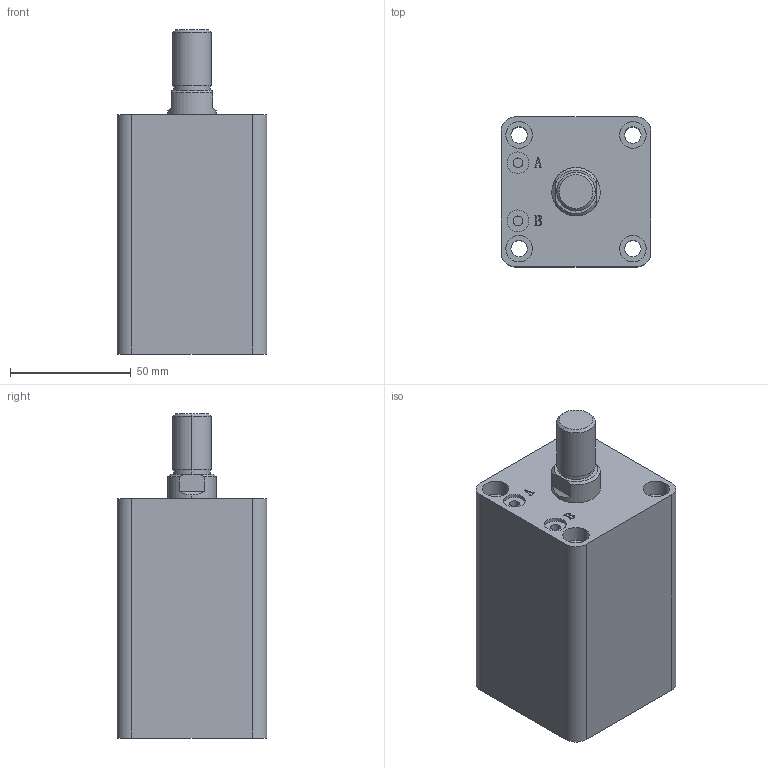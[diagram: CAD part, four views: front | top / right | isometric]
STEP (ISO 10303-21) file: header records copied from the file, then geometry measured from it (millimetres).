
FILE_DESCRIPTION (( 'STEP AP203' ), '1' );
FILE_NAME ('HTB-SDMA32-45W.STEP', '2019-10-07T11:41:13', ( '微软用户' ), ( '微软中国' ), 'SwSTEP 2.0', 'SolidWorks 2012', '' );
FILE_SCHEMA (( 'CONFIG_CONTROL_DESIGN' ));
Length unit declared in the file: millimetre
Products named in the file (3): HTB-SDMA32-45W; HTB-SDMA32-45W活塞杆; HTB-SDMA32-45掛极
Assembly tree (2 placements, depth 2):
  HTB-SDMA32-45W
    HTB-SDMA32-45掛极
    HTB-SDMA32-45W活塞杆
Bounding box: 62 x 62 x 134 mm (x, y, z)
Volume: 345444.2 mm3; surface area: 59044.6 mm2
Topology: 2 solids, 2 shells, 141 faces, 337 edges, 222 vertices
Faces by surface type: plane 67, cylinder 48, bspline 16, torus 6, cone 4
Entity records: 5176 total; most frequent: CARTESIAN_POINT 1593, ORIENTED_EDGE 674, DIRECTION 669, EDGE_CURVE 337, AXIS2_PLACEMENT_3D 242, VERTEX_POINT 222, VECTOR 185, LINE 185
